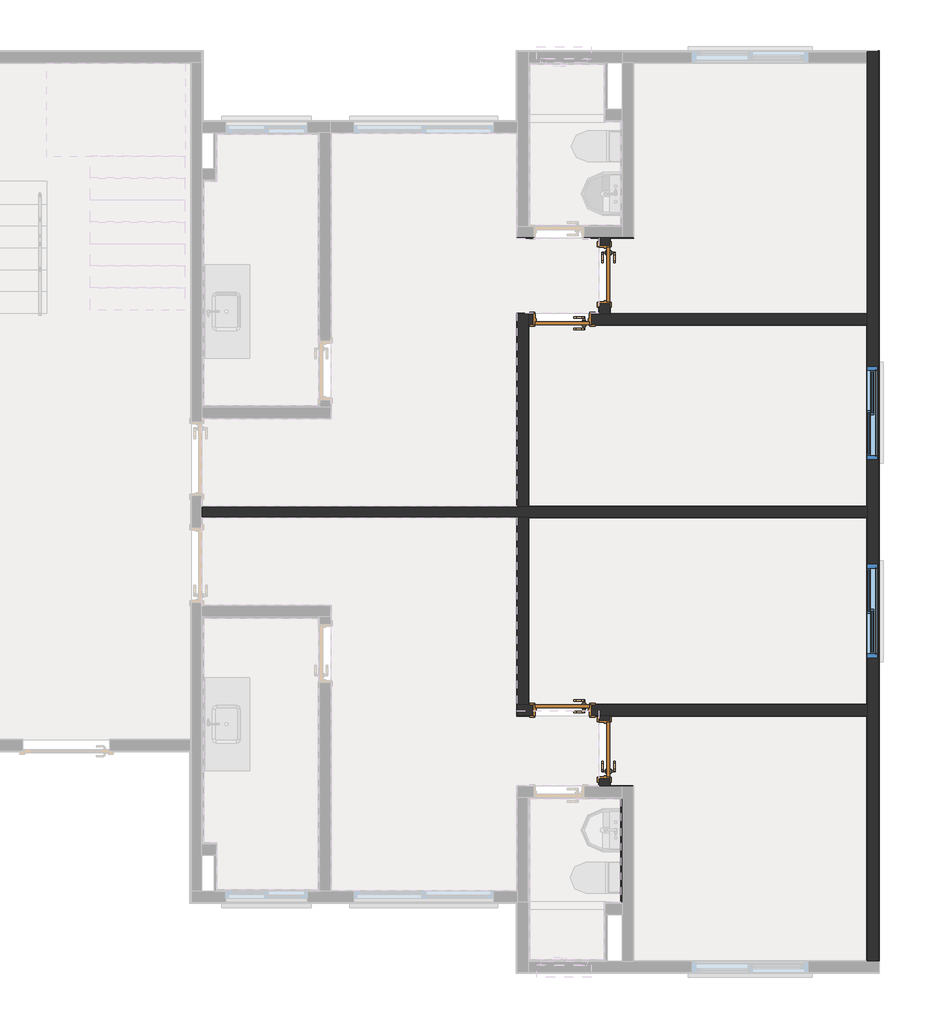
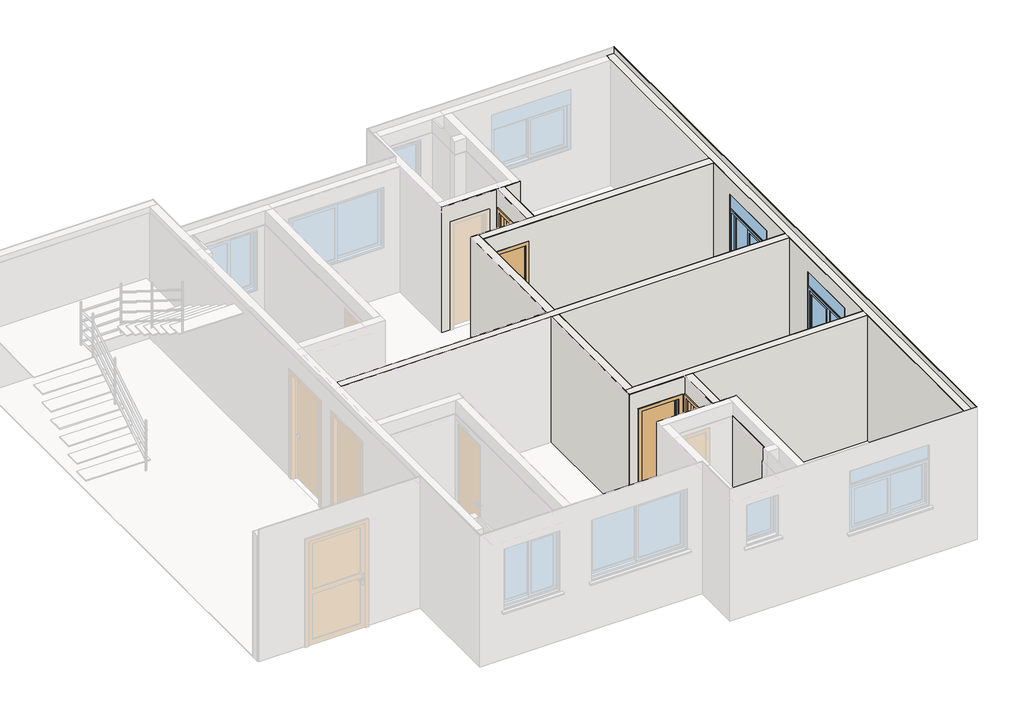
# One storey, part 7 of 9: 31 walls, 4 doors, 2 windows.
"""IFC4 building model written with IfcOpenShell, lengths in millimetres."""

from ifc_helpers import new_model, si_unit, frame, origin, place, context, project, spatial, polyline, outline, extrude, faceted_brep, transform, mapped, element, save
from components import porta_de_madeira_interna_70_x_210_porta_de_madeira_interna_d0067c94, porta_de_madeira_interna_70_x_210_porta_de_madeira_interna_f307109d, window_120x120_fed861a7, window_120x120_8f0dd2b5

model = new_model("IFC4")

# Units and contexts
model_context = context("Model", 3, world=origin())
ifc_project = project(units=[si_unit("LENGTHUNIT", "METRE", prefix="MILLI")], contexts=[model_context])

# Site, building, storey
site = spatial("IfcSite", under=ifc_project)
building = spatial("IfcBuilding", under=site)
storey = spatial("IfcBuildingStorey", under=building, Name="3º Pavimento", Elevation=5260.0)

# Doors
placement = place(None, origin())
porta_de_madeira_interna_70_x_210_porta_de_madeira_interna_shape = porta_de_madeira_interna_70_x_210_porta_de_madeira_interna_d0067c94(model_context)
element("IfcDoor", 1, ObjectType="Porta de Madeira Interna 70 x 210 : Porta de Madeira Interna 70 x 210", at=placement, inside=storey, context=model_context, shape_type="MappedRepresentation", body=[
    mapped(porta_de_madeira_interna_70_x_210_porta_de_madeira_interna_shape, transform((17273.1716432, 9457.0248023, 5260.0), x_axis=(0.0, -1.0, 0.0), y_axis=(1.0, 0.0, 0.0), z_axis=(0.0, 0.0, 1.0))),
])
element("IfcDoor", 2, ObjectType="Porta de Madeira Interna 70 x 210 : Porta de Madeira Interna 70 x 210", at=placement, inside=storey, context=model_context, shape_type="MappedRepresentation", body=[
    mapped(porta_de_madeira_interna_70_x_210_porta_de_madeira_interna_shape, transform((16726.9947994, 8876.8494803, 5260.0), x_axis=(-1.0, 0.0, 0.0), y_axis=(0.0, -1.0, 0.0), z_axis=(0.0, 0.0, 1.0))),
])
porta_de_madeira_interna_70_x_210_porta_de_madeira_interna_2_shape = porta_de_madeira_interna_70_x_210_porta_de_madeira_interna_f307109d(model_context)
element("IfcDoor", 3, ObjectType="Porta de Madeira Interna 70 x 210 : Porta de Madeira Interna 70 x 210", at=placement, inside=storey, context=model_context, shape_type="MappedRepresentation", body=[
    mapped(porta_de_madeira_interna_70_x_210_porta_de_madeira_interna_2_shape, transform((17273.1716432, 3342.9958256, 5260.0), x_axis=(0.0, 1.0, 0.0), y_axis=(-1.0, 0.0, 0.0), z_axis=(0.0, 0.0, 1.0))),
])
element("IfcDoor", 4, ObjectType="Porta de Madeira Interna 70 x 210 : Porta de Madeira Interna 70 x 210", at=placement, inside=storey, context=model_context, shape_type="MappedRepresentation", body=[
    mapped(porta_de_madeira_interna_70_x_210_porta_de_madeira_interna_2_shape, transform((16726.9947994, 3853.1701411, 5260.0), x_axis=(-1.0, 0.0, 0.0), y_axis=(0.0, -1.0, 0.0), z_axis=(0.0, 0.0, 1.0))),
])

# Walls
element("IfcWall", 5, ObjectType="Alvenaria Estrutural", at=placement, inside=storey, context=model_context, shape_type="Brep", body=[
    faceted_brep([(20649.9955249, 12319.9951043, 5260.0), (20649.9955249, 12180.0252435, 5260.0), (20649.9955249, 8956.0244803, 5260.0), (20649.9955249, 8950.0244803, 5260.0), (20649.9955249, 8810.0244803, 5260.0), (20649.9955249, 8804.0244803, 5260.0), (20649.9955249, 6476.0103139, 5260.0), (20649.9955249, 6470.0103139, 5260.0), (20649.9955249, 6330.0103139, 5260.0), (20649.9955249, 6324.0103139, 5260.0), (20649.9955249, 3925.9951411, 5260.0), (20649.9955249, 3919.9951411, 5260.0), (20649.9955249, 3779.9951411, 5260.0), (20649.9955249, 3773.9951411, 5260.0), (20649.9955249, 619.9952456, 5260.0), (20649.9955249, 619.9952456, 7770.0), (20649.9955249, 3773.9951411, 7770.0), (20649.9955249, 3779.9951411, 7770.0), (20649.9955249, 3919.9951411, 7770.0), (20649.9955249, 3925.9951411, 7770.0), (20649.9955249, 6324.0103139, 7770.0), (20649.9955249, 6330.0103139, 7770.0), (20649.9955249, 6470.0103139, 7770.0), (20649.9955249, 6476.0103139, 7770.0), (20649.9955249, 8804.0244803, 7770.0), (20649.9955249, 8810.0244803, 7770.0), (20649.9955249, 8950.0244803, 7770.0), (20649.9955249, 8956.0244803, 7770.0), (20649.9955249, 12180.0252435, 7770.0), (20649.9955249, 12319.9951043, 7770.0), (20649.9955249, 5725.0101878, 6260.0), (20649.9955249, 5725.0101878, 7460.0), (20649.9955249, 4525.0101878, 7460.0), (20649.9955249, 4525.0101878, 6260.0), (20649.9955249, 7075.01044, 7460.0), (20649.9955249, 7075.01044, 6260.0), (20649.9955249, 8275.01044, 6260.0), (20649.9955249, 8275.01044, 7460.0), (20789.9955249, 619.9952456, 5260.0), (20789.9955249, 12319.9951043, 5260.0), (20789.9955249, 12319.9951043, 7770.0), (20789.9955249, 619.9952456, 7770.0), (20789.9955249, 5725.0101878, 7460.0), (20789.9955249, 5725.0101878, 6260.0), (20789.9955249, 5775.0101878, 6260.0), (20789.9955249, 5775.0101878, 6211.3083694), (20789.9955249, 4475.0101878, 6211.3083694), (20789.9955249, 4475.0101878, 6260.0), (20789.9955249, 4525.0101878, 6260.0), (20789.9955249, 4525.0101878, 7460.0), (20789.9955249, 7025.01044, 6211.3083694), (20789.9955249, 7025.01044, 6260.0), (20789.9955249, 7075.01044, 6260.0), (20789.9955249, 7075.01044, 7460.0), (20789.9955249, 8275.01044, 7460.0), (20789.9955249, 8275.01044, 6260.0), (20789.9955249, 8325.01044, 6260.0), (20789.9955249, 8325.01044, 6211.3083694), (20692.4955249, 5725.0101878, 6260.0), (20692.4955249, 4525.0101878, 6260.0), (20692.4955249, 7075.01044, 6260.0), (20692.4955249, 8275.01044, 6260.0), (20692.4955249, 4475.0101878, 6232.0326341), (20692.4955249, 4475.0101878, 6260.0), (20692.4955249, 5775.0101878, 6260.0), (20692.4955249, 5775.0101878, 6232.0326341), (20692.4955249, 7025.01044, 6232.0326341), (20692.4955249, 7025.01044, 6260.0), (20692.4955249, 8325.01044, 6260.0), (20692.4955249, 8325.01044, 6232.0326341)], [[[0, 1, 2, 3, 4, 5, 6, 7, 8, 9, 10, 11, 12, 13, 14, 15, 16, 17, 18, 19, 20, 21, 22, 23, 24, 25, 26, 27, 28, 29], [30, 31, 32, 33], [34, 35, 36, 37]], [[38, 39, 40, 41], [42, 43, 44, 45, 46, 47, 48, 49], [50, 51, 52, 53, 54, 55, 56, 57]], [[31, 30, 58, 43, 42]], [[32, 31, 42, 49]], [[33, 32, 49, 48, 59]], [[30, 33, 59, 58]], [[35, 34, 53, 52, 60]], [[34, 37, 54, 53]], [[37, 36, 61, 55, 54]], [[36, 35, 60, 61]], [[1, 0, 39, 38, 14, 13, 12, 11, 10, 9, 8, 7, 6, 5, 4, 3, 2]], [[15, 14, 38, 41]], [[16, 15, 41, 40, 29, 28, 27, 26, 25, 24, 23, 22, 21, 20, 19, 18, 17]], [[0, 29, 40, 39]], [[47, 46, 62, 63]], [[45, 44, 64, 65]], [[58, 59, 63, 62, 65, 64]], [[48, 47, 63, 59]], [[46, 45, 65, 62]], [[51, 50, 66, 67]], [[57, 56, 68, 69]], [[61, 60, 67, 66, 69, 68]], [[52, 51, 67, 60]], [[50, 57, 69, 66]], [[56, 55, 61, 68]], [[44, 43, 58, 64]]]),
])
element("IfcWall", 6, ObjectType="Alvenaria Estrutural", at=placement, inside=storey, context=model_context, shape_type="Brep", body=[
    faceted_brep([(16149.9950207, 3919.9951411, 7770.0), (16289.9950207, 3919.9951411, 7770.0), (16295.9950207, 3919.9951411, 7770.0), (20643.9955249, 3919.9951411, 7770.0), (20649.9955249, 3919.9951411, 7770.0), (20649.9955249, 3919.9951411, 5260.0), (20643.9955249, 3919.9951411, 5260.0), (17101.9947994, 3919.9951411, 5260.0), (17101.9947994, 3919.9951411, 7385.0), (16351.9947994, 3919.9951411, 7385.0), (16351.9947994, 3919.9951411, 5260.0), (16295.9950207, 3919.9951411, 5260.0), (16289.9950207, 3919.9951411, 5260.0), (16149.9950207, 3919.9951411, 5260.0), (20649.9955249, 3779.9951411, 7770.0), (20643.9955249, 3779.9951411, 7770.0), (17345.9966432, 3779.9951411, 7770.0), (17339.9966432, 3779.9951411, 7770.0), (17199.9966432, 3779.9951411, 7770.0), (17193.9966432, 3779.9951411, 7770.0), (16149.9950207, 3779.9951411, 7770.0), (16149.9950207, 3779.9951411, 5260.0), (16351.9947994, 3779.9951411, 5260.0), (16351.9947994, 3779.9951411, 7385.0), (17101.9947994, 3779.9951411, 7385.0), (17101.9947994, 3779.9951411, 5260.0), (17193.9966432, 3779.9951411, 5260.0), (17199.9966432, 3779.9951411, 5260.0), (17339.9966432, 3779.9951411, 5260.0), (17345.9966432, 3779.9951411, 5260.0), (20643.9955249, 3779.9951411, 5260.0), (20649.9955249, 3779.9951411, 5260.0)], [[[0, 1, 2, 3, 4, 5, 6, 7, 8, 9, 10, 11, 12, 13]], [[14, 15, 16, 17, 18, 19, 20, 21, 22, 23, 24, 25, 26, 27, 28, 29, 30, 31]], [[6, 5, 31, 30, 29, 28, 27, 26, 25, 7]], [[1, 0, 20, 19, 18, 17, 16, 15, 14, 4, 3, 2]], [[10, 9, 23, 22]], [[9, 8, 24, 23]], [[8, 7, 25, 24]], [[0, 13, 21, 20]], [[5, 4, 14, 31]], [[11, 10, 22, 21, 13, 12]]]),
])
element("IfcWall", 7, ObjectType="Alvenaria Estrutural", at=placement, inside=storey, context=model_context, shape_type="Brep", body=[
    faceted_brep([(20649.9955249, 6470.0103139, 5260.0), (20643.9955249, 6470.0103139, 5260.0), (16295.9950207, 6470.0103139, 5260.0), (16289.9950207, 6470.0103139, 5260.0), (16149.9950207, 6470.0103139, 5260.0), (16143.9950207, 6470.0103139, 5260.0), (12095.9984066, 6470.0103139, 5260.0), (12089.9984066, 6470.0103139, 5260.0), (12089.9984066, 6470.0103139, 7770.0), (12095.9984066, 6470.0103139, 7770.0), (16143.9950207, 6470.0103139, 7770.0), (16149.9950207, 6470.0103139, 7770.0), (16289.9950207, 6470.0103139, 7770.0), (16295.9950207, 6470.0103139, 7770.0), (20643.9955249, 6470.0103139, 7770.0), (20649.9955249, 6470.0103139, 7770.0), (20649.9955249, 6330.0103139, 5260.0), (20649.9955249, 6330.0103139, 7770.0), (20643.9955249, 6330.0103139, 7770.0), (16295.9950207, 6330.0103139, 7770.0), (16289.9950207, 6330.0103139, 7770.0), (16149.9950207, 6330.0103139, 7770.0), (16143.9950207, 6330.0103139, 7770.0), (12095.9984066, 6330.0103139, 7770.0), (12089.9984066, 6330.0103139, 7770.0), (12089.9984066, 6330.0103139, 5260.0), (12095.9984066, 6330.0103139, 5260.0), (16143.9950207, 6330.0103139, 5260.0), (16149.9950207, 6330.0103139, 5260.0), (16289.9950207, 6330.0103139, 5260.0), (16295.9950207, 6330.0103139, 5260.0), (20643.9955249, 6330.0103139, 5260.0)], [[[0, 1, 2, 3, 4, 5, 6, 7, 8, 9, 10, 11, 12, 13, 14, 15]], [[16, 17, 18, 19, 20, 21, 22, 23, 24, 25, 26, 27, 28, 29, 30, 31]], [[1, 0, 16, 31, 30, 29, 28, 27, 26, 25, 7, 6, 5, 4, 3, 2]], [[9, 8, 24, 23, 22, 21, 20, 19, 18, 17, 15, 14, 13, 12, 11, 10]], [[8, 7, 25, 24]], [[0, 15, 17, 16]]]),
])
element("IfcWall", 8, ObjectType="Alvenaria Estrutural", at=placement, inside=storey, context=model_context, shape_type="Brep", body=[
    faceted_brep([(16149.9950207, 6330.0103139, 5260.0), (16149.9950207, 6324.0103139, 5260.0), (16149.9950207, 3919.9951411, 5260.0), (16149.9950207, 3919.9951411, 7770.0), (16149.9950207, 6324.0103139, 7770.0), (16149.9950207, 6330.0103139, 7770.0), (16289.9950207, 6330.0103139, 5260.0), (16289.9950207, 6330.0103139, 7770.0), (16289.9950207, 6324.0103139, 7770.0), (16289.9950207, 3925.9951411, 7770.0), (16289.9950207, 3919.9951411, 7770.0), (16289.9950207, 3919.9951411, 5260.0), (16289.9950207, 3925.9951411, 5260.0), (16289.9950207, 6324.0103139, 5260.0)], [[[0, 1, 2, 3, 4, 5]], [[6, 7, 8, 9, 10, 11, 12, 13]], [[1, 0, 6, 13, 12, 11, 2]], [[4, 3, 10, 9, 8, 7, 5]], [[0, 5, 7, 6]], [[3, 2, 11, 10]]]),
])
element("IfcWall", 9, ObjectType="Alvenaria Estrutural", at=placement, inside=storey, context=model_context, shape_type="Brep", body=[
    faceted_brep([(17199.9966432, 2869.9967615, 7770.0), (17199.9966432, 2875.9967615, 7770.0), (17199.9966432, 3773.9951411, 7770.0), (17199.9966432, 3779.9951411, 7770.0), (17199.9966432, 3779.9951411, 5260.0), (17199.9966432, 3773.9951411, 5260.0), (17199.9966432, 3717.9958256, 5260.0), (17199.9966432, 3717.9958256, 7385.0), (17199.9966432, 2967.9958256, 7385.0), (17199.9966432, 2967.9958256, 5260.0), (17199.9966432, 2875.9967615, 5260.0), (17199.9966432, 2869.9967615, 5260.0), (17339.9966432, 3779.9951411, 7770.0), (17339.9966432, 2875.9967615, 7770.0), (17339.9966432, 2869.9967615, 7770.0), (17339.9966432, 2869.9967615, 5260.0), (17339.9966432, 2875.9967615, 5260.0), (17339.9966432, 2967.9958256, 5260.0), (17339.9966432, 2967.9958256, 7385.0), (17339.9966432, 3717.9958256, 7385.0), (17339.9966432, 3717.9958256, 5260.0), (17339.9966432, 3779.9951411, 5260.0)], [[[0, 1, 2, 3, 4, 5, 6, 7, 8, 9, 10, 11]], [[12, 13, 14, 15, 16, 17, 18, 19, 20, 21]], [[5, 4, 21, 20, 6]], [[1, 0, 14, 13, 12, 3, 2]], [[7, 6, 20, 19]], [[8, 7, 19, 18]], [[9, 8, 18, 17]], [[0, 11, 15, 14]], [[4, 3, 12, 21]], [[10, 9, 17, 16, 15, 11]]]),
])
element("IfcWall", 10, ObjectType="Alvenaria Estrutural", at=placement, inside=storey, context=model_context, shape_type="Brep", body=[
    faceted_brep([(16289.9950207, 6470.0103139, 5260.0), (16289.9950207, 6476.0103139, 5260.0), (16289.9950207, 8804.0244803, 5260.0), (16289.9950207, 8810.0244803, 5260.0), (16289.9950207, 8950.0244803, 5260.0), (16289.9950207, 8950.0244803, 7770.0), (16289.9950207, 8810.0244803, 7770.0), (16289.9950207, 8804.0244803, 7770.0), (16289.9950207, 6476.0103139, 7770.0), (16289.9950207, 6470.0103139, 7770.0), (16149.9950207, 6470.0103139, 5260.0), (16149.9950207, 6470.0103139, 7770.0), (16149.9950207, 6476.0103139, 7770.0), (16149.9950207, 8950.0244803, 7770.0), (16149.9950207, 8950.0244803, 5260.0), (16149.9950207, 6476.0103139, 5260.0)], [[[0, 1, 2, 3, 4, 5, 6, 7, 8, 9]], [[10, 11, 12, 13, 14, 15]], [[1, 0, 10, 15, 14, 4, 3, 2]], [[6, 5, 13, 12, 11, 9, 8, 7]], [[5, 4, 14, 13]], [[0, 9, 11, 10]]]),
])
element("IfcWall", 11, ObjectType="Alvenaria Estrutural", at=placement, inside=storey, context=model_context, shape_type="Brep", body=[
    faceted_brep([(17339.9966432, 9930.0238664, 7770.0), (17339.9966432, 9924.0238664, 7770.0), (17339.9966432, 8950.0244803, 7770.0), (17339.9966432, 8950.0244803, 5260.0), (17339.9966432, 9082.0248023, 5260.0), (17339.9966432, 9082.0248023, 7385.0), (17339.9966432, 9832.0248023, 7385.0), (17339.9966432, 9832.0248023, 5260.0), (17339.9966432, 9924.0238664, 5260.0), (17339.9966432, 9930.0238664, 5260.0), (17199.9966432, 8950.0244803, 7770.0), (17199.9966432, 8956.0244803, 7770.0), (17199.9966432, 9924.0238664, 7770.0), (17199.9966432, 9930.0238664, 7770.0), (17199.9966432, 9930.0238664, 5260.0), (17199.9966432, 9924.0238664, 5260.0), (17199.9966432, 9832.0248023, 5260.0), (17199.9966432, 9832.0248023, 7385.0), (17199.9966432, 9082.0248023, 7385.0), (17199.9966432, 9082.0248023, 5260.0), (17199.9966432, 8956.0244803, 5260.0), (17199.9966432, 8950.0244803, 5260.0)], [[[0, 1, 2, 3, 4, 5, 6, 7, 8, 9]], [[10, 11, 12, 13, 14, 15, 16, 17, 18, 19, 20, 21]], [[4, 3, 21, 20, 19]], [[1, 0, 13, 12, 11, 10, 2]], [[5, 4, 19, 18]], [[6, 5, 18, 17]], [[7, 6, 17, 16]], [[3, 2, 10, 21]], [[0, 9, 14, 13]], [[8, 7, 16, 15, 14, 9]]]),
])
element("IfcWall", 12, ObjectType="Alvenaria Estrutural", at=placement, inside=storey, context=model_context, shape_type="Brep", body=[
    faceted_brep([(20649.9955249, 8810.0244803, 7770.0), (20643.9955249, 8810.0244803, 7770.0), (16295.9950207, 8810.0244803, 7770.0), (16289.9950207, 8810.0244803, 7770.0), (16289.9950207, 8810.0244803, 5260.0), (16295.9950207, 8810.0244803, 5260.0), (16351.9947994, 8810.0244803, 5260.0), (16351.9947994, 8810.0244803, 7385.0), (17101.9947994, 8810.0244803, 7385.0), (17101.9947994, 8810.0244803, 5260.0), (20643.9955249, 8810.0244803, 5260.0), (20649.9955249, 8810.0244803, 5260.0), (16289.9950207, 8950.0244803, 7770.0), (17193.9966432, 8950.0244803, 7770.0), (17199.9966432, 8950.0244803, 7770.0), (17339.9966432, 8950.0244803, 7770.0), (17345.9966432, 8950.0244803, 7770.0), (20643.9955249, 8950.0244803, 7770.0), (20649.9955249, 8950.0244803, 7770.0), (20649.9955249, 8950.0244803, 5260.0), (20643.9955249, 8950.0244803, 5260.0), (17345.9966432, 8950.0244803, 5260.0), (17339.9966432, 8950.0244803, 5260.0), (17199.9966432, 8950.0244803, 5260.0), (17193.9966432, 8950.0244803, 5260.0), (17101.9947994, 8950.0244803, 5260.0), (17101.9947994, 8950.0244803, 7385.0), (16351.9947994, 8950.0244803, 7385.0), (16351.9947994, 8950.0244803, 5260.0), (16289.9950207, 8950.0244803, 5260.0)], [[[0, 1, 2, 3, 4, 5, 6, 7, 8, 9, 10, 11]], [[12, 13, 14, 15, 16, 17, 18, 19, 20, 21, 22, 23, 24, 25, 26, 27, 28, 29]], [[5, 4, 29, 28, 6]], [[1, 0, 18, 17, 16, 15, 14, 13, 12, 3, 2]], [[7, 6, 28, 27]], [[8, 7, 27, 26]], [[9, 8, 26, 25]], [[4, 3, 12, 29]], [[0, 11, 19, 18]], [[10, 9, 25, 24, 23, 22, 21, 20, 19, 11]]]),
])
element("IfcWall", 13, ObjectType="Azulejo", at=placement, inside=storey, context=model_context, shape_type="SweptSolid", body=[
    extrude(outline(polyline([(17479.9970535, 1379.9970972), (17479.9970535, 2709.9967615), (17489.9970535, 2709.9967615), (17489.9970535, 1379.9970972), (17479.9970535, 1379.9970972)])), frame((0.0, 0.0, 5260.0), z_axis=(0.0, 0.0, 1.0), x_axis=(1.0, 0.0, 0.0)), (0.0, 0.0, 1.0), 2250.0),
    extrude(outline(polyline([(17499.9970535, 2719.9967615), (17499.9970535, 1369.9970972), (17489.9970535, 1369.9970972), (17489.9970535, 2719.9967615), (17499.9970535, 2719.9967615)])), frame((0.0, 0.0, 5260.0), z_axis=(0.0, 0.0, 1.0), x_axis=(1.0, 0.0, 0.0)), (0.0, 0.0, 1.0), 2250.0),
])
element("IfcWall", 14, ObjectType="Gesso Liso + Pintura", at=placement, inside=storey, context=model_context, shape_type="SweptSolid", body=[
    extrude(outline(polyline([(6470.0103139, 5260.0), (6470.0103139, 7770.0), (8810.0244803, 7770.0), (8810.0244803, 5260.0), (6470.0103139, 5260.0)]), holes=[polyline([(7075.01044, 6260.0), (8275.01044, 6260.0), (8275.01044, 7460.0), (7075.01044, 7460.0), (7075.01044, 6260.0)])]), frame((20643.9955249, 0.0, 0.0), z_axis=(1.0, 0.0, 0.0), x_axis=(0.0, 1.0, 0.0)), (0.0, 0.0, 1.0), 1.0),
    extrude(outline(polyline([(8810.0244803, 5260.0), (6470.0103139, 5260.0), (6470.0103139, 7770.0), (8810.0244803, 7770.0), (8810.0244803, 5260.0)]), holes=[polyline([(7075.01044, 7460.0), (7075.01044, 6260.0), (8275.01044, 6260.0), (8275.01044, 7460.0), (7075.01044, 7460.0)])]), frame((20644.9955249, 0.0, 0.0), z_axis=(1.0, 0.0, 0.0), x_axis=(0.0, 1.0, 0.0)), (0.0, 0.0, 1.0), 5.0),
])
element("IfcWall", 15, ObjectType="Gesso Liso + Pintura", at=placement, inside=storey, context=model_context, shape_type="SweptSolid", body=[
    extrude(outline(polyline([(7770.0, 20649.9955249), (7770.0, 16289.9950207), (5260.0, 16289.9950207), (5260.0, 16351.9947994), (7385.0, 16351.9947994), (7385.0, 17101.9947994), (5260.0, 17101.9947994), (5260.0, 20649.9955249), (7770.0, 20649.9955249)])), frame((0.0, 8804.0244803, 0.0), z_axis=(0.0, 1.0, 0.0), x_axis=(0.0, 0.0, 1.0)), (0.0, 0.0, 1.0), 1.0),
    extrude(outline(polyline([(5260.0, 17101.9947994), (5260.0, 20649.9955249), (7770.0, 20649.9955249), (7770.0, 16289.9950207), (5260.0, 16289.9950207), (5260.0, 16351.9947994), (7385.0, 16351.9947994), (7385.0, 17101.9947994), (5260.0, 17101.9947994)])), frame((0.0, 8805.0244803, 0.0), z_axis=(0.0, 1.0, 0.0), x_axis=(0.0, 0.0, 1.0)), (0.0, 0.0, 1.0), 5.0),
])
element("IfcWall", 16, ObjectType="Gesso Liso + Pintura", at=placement, inside=storey, context=model_context, shape_type="SweptSolid", body=[
    extrude(outline(polyline([(16295.9950207, 8810.0244803), (16295.9950207, 6470.0103139), (16294.9950207, 6470.0103139), (16294.9950207, 8810.0244803), (16295.9950207, 8810.0244803)])), frame((0.0, 0.0, 5260.0), z_axis=(0.0, 0.0, 1.0), x_axis=(1.0, 0.0, 0.0)), (0.0, 0.0, 1.0), 2510.0),
    extrude(outline(polyline([(16289.9950207, 6470.0103139), (16289.9950207, 8810.0244803), (16294.9950207, 8810.0244803), (16294.9950207, 6470.0103139), (16289.9950207, 6470.0103139)])), frame((0.0, 0.0, 5260.0), z_axis=(0.0, 0.0, 1.0), x_axis=(1.0, 0.0, 0.0)), (0.0, 0.0, 1.0), 2510.0),
])
element("IfcWall", 17, ObjectType="Gesso Liso + Pintura", at=placement, inside=storey, context=model_context, shape_type="SweptSolid", body=[
    extrude(outline(polyline([(16289.9950207, 6476.0103139), (20649.9955249, 6476.0103139), (20649.9955249, 6475.0103139), (16289.9950207, 6475.0103139), (16289.9950207, 6476.0103139)])), frame((0.0, 0.0, 5260.0), z_axis=(0.0, 0.0, 1.0), x_axis=(1.0, 0.0, 0.0)), (0.0, 0.0, 1.0), 2510.0),
    extrude(outline(polyline([(20649.9955249, 6470.0103139), (16289.9950207, 6470.0103139), (16289.9950207, 6475.0103139), (20649.9955249, 6475.0103139), (20649.9955249, 6470.0103139)])), frame((0.0, 0.0, 5260.0), z_axis=(0.0, 0.0, 1.0), x_axis=(1.0, 0.0, 0.0)), (0.0, 0.0, 1.0), 2510.0),
])
element("IfcWall", 18, ObjectType="Gesso Liso + Pintura", at=placement, inside=storey, context=model_context, shape_type="SweptSolid", body=[
    extrude(outline(polyline([(6330.0103139, 5260.0), (3919.9951411, 5260.0), (3919.9951411, 7770.0), (6330.0103139, 7770.0), (6330.0103139, 5260.0)]), holes=[polyline([(5725.0101878, 6260.0), (5725.0101878, 7460.0), (4525.0101878, 7460.0), (4525.0101878, 6260.0), (5725.0101878, 6260.0)])]), frame((20643.9955249, 0.0, 0.0), z_axis=(1.0, 0.0, 0.0), x_axis=(0.0, 1.0, 0.0)), (0.0, 0.0, 1.0), 1.0),
    extrude(outline(polyline([(6330.0103139, 5260.0), (3919.9951411, 5260.0), (3919.9951411, 7770.0), (6330.0103139, 7770.0), (6330.0103139, 5260.0)]), holes=[polyline([(5725.0101878, 6260.0), (5725.0101878, 7460.0), (4525.0101878, 7460.0), (4525.0101878, 6260.0), (5725.0101878, 6260.0)])]), frame((20644.9955249, 0.0, 0.0), z_axis=(1.0, 0.0, 0.0), x_axis=(0.0, 1.0, 0.0)), (0.0, 0.0, 1.0), 5.0),
])
element("IfcWall", 19, ObjectType="Gesso Liso + Pintura", at=placement, inside=storey, context=model_context, shape_type="SweptSolid", body=[
    extrude(outline(polyline([(5260.0, 17101.9947994), (5260.0, 20649.9955249), (7770.0, 20649.9955249), (7770.0, 16289.9950207), (5260.0, 16289.9950207), (5260.0, 16351.9947994), (7385.0, 16351.9947994), (7385.0, 17101.9947994), (5260.0, 17101.9947994)])), frame((0.0, 3924.9951411, 0.0), z_axis=(0.0, 1.0, 0.0), x_axis=(0.0, 0.0, 1.0)), (0.0, 0.0, 1.0), 1.0),
    extrude(outline(polyline([(7770.0, 20649.9955249), (7770.0, 16289.9950207), (5260.0, 16289.9950207), (5260.0, 16351.9947994), (7385.0, 16351.9947994), (7385.0, 17101.9947994), (5260.0, 17101.9947994), (5260.0, 20649.9955249), (7770.0, 20649.9955249)])), frame((0.0, 3919.9951411, 0.0), z_axis=(0.0, 1.0, 0.0), x_axis=(0.0, 0.0, 1.0)), (0.0, 0.0, 1.0), 5.0),
])
element("IfcWall", 20, ObjectType="Gesso Liso + Pintura", at=placement, inside=storey, context=model_context, shape_type="SweptSolid", body=[
    extrude(outline(polyline([(16295.9950207, 6330.0103139), (16295.9950207, 3919.9951411), (16294.9950207, 3919.9951411), (16294.9950207, 6330.0103139), (16295.9950207, 6330.0103139)])), frame((0.0, 0.0, 5260.0), z_axis=(0.0, 0.0, 1.0), x_axis=(1.0, 0.0, 0.0)), (0.0, 0.0, 1.0), 2510.0),
    extrude(outline(polyline([(16289.9950207, 3919.9951411), (16289.9950207, 6330.0103139), (16294.9950207, 6330.0103139), (16294.9950207, 3919.9951411), (16289.9950207, 3919.9951411)])), frame((0.0, 0.0, 5260.0), z_axis=(0.0, 0.0, 1.0), x_axis=(1.0, 0.0, 0.0)), (0.0, 0.0, 1.0), 2510.0),
])
element("IfcWall", 21, ObjectType="Gesso Liso + Pintura", at=placement, inside=storey, context=model_context, shape_type="SweptSolid", body=[
    extrude(outline(polyline([(20649.9955249, 6324.0103139), (16289.9950207, 6324.0103139), (16289.9950207, 6325.0103139), (20649.9955249, 6325.0103139), (20649.9955249, 6324.0103139)])), frame((0.0, 0.0, 5260.0), z_axis=(0.0, 0.0, 1.0), x_axis=(1.0, 0.0, 0.0)), (0.0, 0.0, 1.0), 2510.0),
    extrude(outline(polyline([(16289.9950207, 6330.0103139), (20649.9955249, 6330.0103139), (20649.9955249, 6325.0103139), (16289.9950207, 6325.0103139), (16289.9950207, 6330.0103139)])), frame((0.0, 0.0, 5260.0), z_axis=(0.0, 0.0, 1.0), x_axis=(1.0, 0.0, 0.0)), (0.0, 0.0, 1.0), 2510.0),
])
element("IfcWall", 22, ObjectType="Gesso Liso + Pintura", at=placement, inside=storey, context=model_context, shape_type="SolidModel", body=[
    faceted_brep([(20643.9955249, 625.9952456, 5260.0), (20643.9955249, 3779.9951411, 5260.0), (20644.9955249, 3779.9951411, 5260.0), (20644.9955249, 624.9952456, 5260.0), (20643.9955249, 624.9952456, 5260.0), (20644.9955249, 3779.9951411, 7770.0), (20643.9955249, 3779.9951411, 7770.0), (20643.9955249, 625.9952456, 7770.0), (20643.9955249, 624.9952456, 7770.0), (20644.9955249, 624.9952456, 7770.0)], [[[0, 1, 2, 3, 4]], [[5, 6, 7, 8, 9]], [[2, 1, 6, 5]], [[2, 5, 9, 3]], [[1, 0, 4, 8, 7, 6]], [[4, 3, 9, 8]]]),
    extrude(outline(polyline([(20649.9955249, 3779.9951411), (20649.9955249, 619.9952456), (20644.9955249, 619.9952456), (20644.9955249, 3779.9951411), (20649.9955249, 3779.9951411)])), frame((0.0, 0.0, 5260.0), z_axis=(0.0, 0.0, 1.0), x_axis=(1.0, 0.0, 0.0)), (0.0, 0.0, 1.0), 2510.0),
])
element("IfcWall", 23, ObjectType="Gesso Liso + Pintura", at=placement, inside=storey, context=model_context, shape_type="SolidModel", body=[
    faceted_brep([(17345.9966432, 2875.9967615, 5260.0), (17644.9970535, 2875.9967615, 5260.0), (17644.9970535, 2874.9967615, 5260.0), (17344.9966432, 2874.9967615, 5260.0), (17344.9966432, 2875.9967615, 5260.0), (17644.9970535, 2875.9967615, 7770.0), (17345.9966432, 2875.9967615, 7770.0), (17344.9966432, 2875.9967615, 7770.0), (17344.9966432, 2874.9967615, 7770.0), (17644.9970535, 2874.9967615, 7770.0)], [[[0, 1, 2, 3, 4]], [[5, 6, 7, 8, 9]], [[2, 9, 8, 3]], [[1, 0, 4, 7, 6, 5]], [[1, 5, 9, 2]], [[4, 3, 8, 7]]]),
    extrude(outline(polyline([(17639.9970535, 2869.9967615), (17339.9966432, 2869.9967615), (17339.9966432, 2874.9967615), (17639.9970535, 2874.9967615), (17639.9970535, 2869.9967615)])), frame((0.0, 0.0, 5260.0), z_axis=(0.0, 0.0, 1.0), x_axis=(1.0, 0.0, 0.0)), (0.0, 0.0, 1.0), 2510.0),
])
element("IfcWall", 24, ObjectType="Gesso Liso + Pintura", at=placement, inside=storey, context=model_context, shape_type="SolidModel", body=[
    faceted_brep([(17345.9966432, 2967.9958256, 5260.0), (17345.9966432, 2875.9967615, 5260.0), (17344.9966432, 2875.9967615, 5260.0), (17344.9966432, 2967.9958256, 5260.0), (17344.9966432, 2875.9967615, 7770.0), (17345.9966432, 2875.9967615, 7770.0), (17345.9966432, 3773.9951411, 7770.0), (17345.9966432, 3774.9951411, 7770.0), (17344.9966432, 3774.9951411, 7770.0), (17345.9966432, 3717.9958256, 5260.0), (17345.9966432, 3717.9958256, 7385.0), (17344.9966432, 3717.9958256, 7385.0), (17344.9966432, 3717.9958256, 5260.0), (17345.9966432, 2967.9958256, 7385.0), (17344.9966432, 2967.9958256, 7385.0), (17344.9966432, 3774.9951411, 5260.0), (17345.9966432, 3774.9951411, 5260.0), (17345.9966432, 3773.9951411, 5260.0)], [[[0, 1, 2, 3]], [[4, 5, 6, 7, 8]], [[9, 10, 11, 12]], [[11, 10, 13, 14]], [[0, 3, 14, 13]], [[2, 1, 5, 4]], [[9, 12, 15, 16, 17]], [[3, 2, 4, 8, 15, 12, 11, 14]], [[1, 0, 13, 10, 9, 17, 16, 7, 6, 5]], [[8, 7, 16, 15]]]),
    extrude(outline(polyline([(2874.9967615, 7770.0), (3779.9951411, 7770.0), (3779.9951411, 5260.0), (3717.9958256, 5260.0), (3717.9958256, 7385.0), (2967.9958256, 7385.0), (2967.9958256, 5260.0), (2874.9967615, 5260.0), (2874.9967615, 7770.0)])), frame((17339.9966432, 0.0, 0.0), z_axis=(1.0, 0.0, 0.0), x_axis=(0.0, 1.0, 0.0)), (0.0, 0.0, 1.0), 5.0),
])
element("IfcWall", 25, ObjectType="Gesso Liso + Pintura", at=placement, inside=storey, context=model_context, shape_type="SweptSolid", body=[
    extrude(outline(polyline([(20649.9955249, 3773.9951411), (17345.9966432, 3773.9951411), (17345.9966432, 3774.9951411), (20649.9955249, 3774.9951411), (20649.9955249, 3773.9951411)])), frame((0.0, 0.0, 5260.0), z_axis=(0.0, 0.0, 1.0), x_axis=(1.0, 0.0, 0.0)), (0.0, 0.0, 1.0), 2510.0),
    extrude(outline(polyline([(17344.9966432, 3779.9951411), (20649.9955249, 3779.9951411), (20649.9955249, 3774.9951411), (17344.9966432, 3774.9951411), (17344.9966432, 3779.9951411)])), frame((0.0, 0.0, 5260.0), z_axis=(0.0, 0.0, 1.0), x_axis=(1.0, 0.0, 0.0)), (0.0, 0.0, 1.0), 2510.0),
])
element("IfcWall", 26, ObjectType="Gesso Liso + Pintura", at=placement, inside=storey, context=model_context, shape_type="SolidModel", body=[
    faceted_brep([(17644.9970535, 9924.0238664, 5260.0), (17345.9966432, 9924.0238664, 5260.0), (17344.9966432, 9924.0238664, 5260.0), (17344.9966432, 9925.0238664, 5260.0), (17644.9970535, 9925.0238664, 5260.0), (17345.9966432, 9924.0238664, 7770.0), (17644.9970535, 9924.0238664, 7770.0), (17644.9970535, 9925.0238664, 7770.0), (17344.9966432, 9925.0238664, 7770.0), (17344.9966432, 9924.0238664, 7770.0)], [[[0, 1, 2, 3, 4]], [[5, 6, 7, 8, 9]], [[7, 4, 3, 8]], [[1, 0, 6, 5, 9, 2]], [[6, 0, 4, 7]], [[3, 2, 9, 8]]]),
    extrude(outline(polyline([(17339.9966432, 9930.0238664), (17639.9970535, 9930.0238664), (17639.9970535, 9925.0238664), (17339.9966432, 9925.0238664), (17339.9966432, 9930.0238664)])), frame((0.0, 0.0, 5260.0), z_axis=(0.0, 0.0, 1.0), x_axis=(1.0, 0.0, 0.0)), (0.0, 0.0, 1.0), 2510.0),
])
element("IfcWall", 27, ObjectType="Gesso Liso + Pintura", at=placement, inside=storey, context=model_context, shape_type="SolidModel", body=[
    faceted_brep([(17345.9966432, 9924.0238664, 5260.0), (17345.9966432, 9832.0248023, 5260.0), (17344.9966432, 9832.0248023, 5260.0), (17344.9966432, 9924.0238664, 5260.0), (17345.9966432, 8956.0244803, 7770.0), (17345.9966432, 9924.0238664, 7770.0), (17344.9966432, 9924.0238664, 7770.0), (17344.9966432, 8955.0244803, 7770.0), (17345.9966432, 8955.0244803, 7770.0), (17345.9966432, 9082.0248023, 7385.0), (17345.9966432, 9082.0248023, 5260.0), (17344.9966432, 9082.0248023, 5260.0), (17344.9966432, 9082.0248023, 7385.0), (17344.9966432, 9832.0248023, 7385.0), (17345.9966432, 9832.0248023, 7385.0), (17345.9966432, 8956.0244803, 5260.0), (17345.9966432, 8955.0244803, 5260.0), (17344.9966432, 8955.0244803, 5260.0)], [[[0, 1, 2, 3]], [[4, 5, 6, 7, 8]], [[9, 10, 11, 12]], [[9, 12, 13, 14]], [[2, 1, 14, 13]], [[0, 3, 6, 5]], [[11, 10, 15, 16, 17]], [[3, 2, 13, 12, 11, 17, 7, 6]], [[1, 0, 5, 4, 8, 16, 15, 10, 9, 14]], [[8, 7, 17, 16]]]),
    extrude(outline(polyline([(8950.0244803, 7770.0), (9925.0238664, 7770.0), (9925.0238664, 5260.0), (9832.0248023, 5260.0), (9832.0248023, 7385.0), (9082.0248023, 7385.0), (9082.0248023, 5260.0), (8950.0244803, 5260.0), (8950.0244803, 7770.0)])), frame((17339.9966432, 0.0, 0.0), z_axis=(1.0, 0.0, 0.0), x_axis=(0.0, 1.0, 0.0)), (0.0, 0.0, 1.0), 5.0),
])
element("IfcWall", 28, ObjectType="Gesso Liso + Pintura", at=placement, inside=storey, context=model_context, shape_type="SweptSolid", body=[
    extrude(outline(polyline([(2869.9967615, 7770.0), (3779.9951411, 7770.0), (3779.9951411, 5260.0), (3717.9958256, 5260.0), (3717.9958256, 7385.0), (2967.9958256, 7385.0), (2967.9958256, 5260.0), (2869.9967615, 5260.0), (2869.9967615, 7770.0)])), frame((17193.9966432, 0.0, 0.0), z_axis=(1.0, 0.0, 0.0), x_axis=(0.0, 1.0, 0.0)), (0.0, 0.0, 1.0), 1.0),
    extrude(outline(polyline([(2967.9958256, 5260.0), (2869.9967615, 5260.0), (2869.9967615, 7770.0), (3779.9951411, 7770.0), (3779.9951411, 5260.0), (3717.9958256, 5260.0), (3717.9958256, 7385.0), (2967.9958256, 7385.0), (2967.9958256, 5260.0)])), frame((17194.9966432, 0.0, 0.0), z_axis=(1.0, 0.0, 0.0), x_axis=(0.0, 1.0, 0.0)), (0.0, 0.0, 1.0), 5.0),
])
element("IfcWall", 29, ObjectType="Gesso Liso + Pintura", at=placement, inside=storey, context=model_context, shape_type="SolidModel", body=[
    extrude(outline(polyline([(7770.0, 17199.9966432), (7770.0, 16143.9950207), (5260.0, 16143.9950207), (5260.0, 16351.9947994), (7385.0, 16351.9947994), (7385.0, 17101.9947994), (5260.0, 17101.9947994), (5260.0, 17199.9966432), (7770.0, 17199.9966432)])), frame((0.0, 3773.9951411, 0.0), z_axis=(0.0, 1.0, 0.0), x_axis=(0.0, 0.0, 1.0)), (0.0, 0.0, 1.0), 1.0),
    faceted_brep([(16144.9950207, 3774.9951411, 5260.0), (16351.9947994, 3774.9951411, 5260.0), (16351.9947994, 3774.9951411, 7385.0), (17101.9947994, 3774.9951411, 7385.0), (17101.9947994, 3774.9951411, 5260.0), (17199.9966432, 3774.9951411, 5260.0), (17199.9966432, 3774.9951411, 7770.0), (16144.9950207, 3774.9951411, 7770.0), (16144.9950207, 3779.9951411, 7770.0), (16149.9950207, 3779.9951411, 7770.0), (17199.9966432, 3779.9951411, 7770.0), (17199.9966432, 3779.9951411, 5260.0), (17101.9947994, 3779.9951411, 5260.0), (17101.9947994, 3779.9951411, 7385.0), (16351.9947994, 3779.9951411, 7385.0), (16351.9947994, 3779.9951411, 5260.0), (16149.9950207, 3779.9951411, 5260.0), (16144.9950207, 3779.9951411, 5260.0)], [[[0, 1, 2, 3, 4, 5, 6, 7]], [[8, 9, 10, 11, 12, 13, 14, 15, 16, 17]], [[12, 11, 5, 4]], [[9, 8, 7, 6, 10]], [[15, 14, 2, 1]], [[14, 13, 3, 2]], [[13, 12, 4, 3]], [[11, 10, 6, 5]], [[16, 15, 1, 0, 17]], [[8, 17, 0, 7]]]),
])
element("IfcWall", 30, ObjectType="Gesso Liso + Pintura", at=placement, inside=storey, context=model_context, shape_type="SweptSolid", body=[
    extrude(outline(polyline([(16143.9950207, 3774.9951411), (16143.9950207, 6330.0103139), (16144.9950207, 6330.0103139), (16144.9950207, 3774.9951411), (16143.9950207, 3774.9951411)])), frame((0.0, 0.0, 5260.0), z_axis=(0.0, 0.0, 1.0), x_axis=(1.0, 0.0, 0.0)), (0.0, 0.0, 1.0), 2510.0),
    extrude(outline(polyline([(16149.9950207, 6330.0103139), (16149.9950207, 3779.9951411), (16144.9950207, 3779.9951411), (16144.9950207, 6330.0103139), (16149.9950207, 6330.0103139)])), frame((0.0, 0.0, 5260.0), z_axis=(0.0, 0.0, 1.0), x_axis=(1.0, 0.0, 0.0)), (0.0, 0.0, 1.0), 2510.0),
])
element("IfcWall", 31, ObjectType="Gesso Liso + Pintura", at=placement, inside=storey, context=model_context, shape_type="SweptSolid", body=[
    extrude(outline(polyline([(7770.0, 17199.9966432), (7770.0, 16144.9956991), (5260.0, 16144.9956991), (5260.0, 16356.9956991), (7385.0, 16356.9956991), (7385.0, 17006.9956991), (5260.0, 17006.9956991), (5260.0, 17199.9966432), (7770.0, 17199.9966432)])), frame((0.0, 9924.0238664, 0.0), z_axis=(0.0, 1.0, 0.0), x_axis=(0.0, 0.0, 1.0)), (0.0, 0.0, 1.0), 1.0),
    extrude(outline(polyline([(5260.0, 16149.9956991), (5260.0, 16356.9956991), (7385.0, 16356.9956991), (7385.0, 17006.9956991), (5260.0, 17006.9956991), (5260.0, 17199.9966432), (7770.0, 17199.9966432), (7770.0, 16149.9956991), (5260.0, 16149.9956991)])), frame((0.0, 9925.0238664, 0.0), z_axis=(0.0, 1.0, 0.0), x_axis=(0.0, 0.0, 1.0)), (0.0, 0.0, 1.0), 5.0),
])
element("IfcWall", 32, ObjectType="Gesso Liso + Pintura", at=placement, inside=storey, context=model_context, shape_type="SweptSolid", body=[
    extrude(outline(polyline([(8950.0244803, 7770.0), (9930.0238664, 7770.0), (9930.0238664, 5260.0), (9832.0248023, 5260.0), (9832.0248023, 7385.0), (9082.0248023, 7385.0), (9082.0248023, 5260.0), (8950.0244803, 5260.0), (8950.0244803, 7770.0)])), frame((17193.9966432, 0.0, 0.0), z_axis=(1.0, 0.0, 0.0), x_axis=(0.0, 1.0, 0.0)), (0.0, 0.0, 1.0), 1.0),
    extrude(outline(polyline([(9930.0238664, 5260.0), (9832.0248023, 5260.0), (9832.0248023, 7385.0), (9082.0248023, 7385.0), (9082.0248023, 5260.0), (8950.0244803, 5260.0), (8950.0244803, 7770.0), (9930.0238664, 7770.0), (9930.0238664, 5260.0)])), frame((17194.9966432, 0.0, 0.0), z_axis=(1.0, 0.0, 0.0), x_axis=(0.0, 1.0, 0.0)), (0.0, 0.0, 1.0), 5.0),
])
element("IfcWall", 33, ObjectType="Gesso Liso + Pintura", at=placement, inside=storey, context=model_context, shape_type="SolidModel", body=[
    extrude(outline(polyline([(5260.0, 17101.9947994), (5260.0, 17199.9966432), (7770.0, 17199.9966432), (7770.0, 16144.9950207), (5260.0, 16144.9950207), (5260.0, 16351.9947994), (7385.0, 16351.9947994), (7385.0, 17101.9947994), (5260.0, 17101.9947994)])), frame((0.0, 8955.0244803, 0.0), z_axis=(0.0, 1.0, 0.0), x_axis=(0.0, 0.0, 1.0)), (0.0, 0.0, 1.0), 1.0),
    faceted_brep([(17199.9966432, 8955.0244803, 5260.0), (17101.9947994, 8955.0244803, 5260.0), (17101.9947994, 8955.0244803, 7385.0), (16351.9947994, 8955.0244803, 7385.0), (16351.9947994, 8955.0244803, 5260.0), (16149.9950207, 8955.0244803, 5260.0), (16149.9950207, 8955.0244803, 7770.0), (17199.9966432, 8955.0244803, 7770.0), (17199.9966432, 8950.0244803, 7770.0), (16289.9950207, 8950.0244803, 7770.0), (16149.9950207, 8950.0244803, 7770.0), (16149.9950207, 8950.0244803, 5260.0), (16289.9950207, 8950.0244803, 5260.0), (16351.9947994, 8950.0244803, 5260.0), (16351.9947994, 8950.0244803, 7385.0), (17101.9947994, 8950.0244803, 7385.0), (17101.9947994, 8950.0244803, 5260.0), (17199.9966432, 8950.0244803, 5260.0)], [[[0, 1, 2, 3, 4, 5, 6, 7]], [[8, 9, 10, 11, 12, 13, 14, 15, 16, 17]], [[17, 16, 1, 0]], [[9, 8, 7, 6, 10]], [[14, 13, 4, 3]], [[15, 14, 3, 2]], [[16, 15, 2, 1]], [[11, 10, 6, 5]], [[8, 17, 0, 7]], [[12, 11, 5, 4, 13]]]),
])
element("IfcWall", 34, ObjectType="Gesso Liso + Pintura", at=placement, inside=storey, context=model_context, shape_type="SolidModel", body=[
    extrude(outline(polyline([(16143.9950207, 6470.0103139), (16143.9950207, 8956.0244803), (16144.9950207, 8956.0244803), (16144.9950207, 6470.0103139), (16143.9950207, 6470.0103139)])), frame((0.0, 0.0, 5260.0), z_axis=(0.0, 0.0, 1.0), x_axis=(1.0, 0.0, 0.0)), (0.0, 0.0, 1.0), 2510.0),
    faceted_brep([(16144.9950207, 8955.0244803, 5260.0), (16144.9950207, 6470.0103139, 5260.0), (16144.9950207, 6470.0103139, 7770.0), (16144.9950207, 8955.0244803, 7770.0), (16149.9950207, 8955.0244803, 5260.0), (16149.9950207, 8955.0244803, 7770.0), (16149.9950207, 8950.0244803, 7770.0), (16149.9950207, 6470.0103139, 7770.0), (16149.9950207, 6470.0103139, 5260.0), (16149.9950207, 8950.0244803, 5260.0)], [[[0, 1, 2, 3]], [[4, 5, 6, 7, 8, 9]], [[9, 8, 1, 0, 4]], [[6, 5, 3, 2, 7]], [[8, 7, 2, 1]], [[5, 4, 0, 3]]]),
])
element("IfcWall", 35, ObjectType="Reboco + Pintura Externa", at=placement, inside=storey, context=model_context, shape_type="Brep", body=[
    faceted_brep([(20804.9970535, 12335.9952456, 5260.0), (20804.9970535, 619.9952456, 5260.0), (20804.9970535, 619.9952456, 7770.0), (20804.9970535, 479.9952456, 7770.0), (20804.9970535, 479.9952456, 7890.0), (20804.9970535, 12335.9952456, 7890.0), (20804.9970535, 12335.9952456, 7770.0), (20804.9970535, 7075.01044, 7460.0), (20804.9970535, 7075.01044, 6260.0), (20804.9970535, 8275.01044, 6260.0), (20804.9970535, 8275.01044, 7460.0), (20804.9970535, 5725.0101878, 6260.0), (20804.9970535, 5725.0101878, 7460.0), (20804.9970535, 4525.0101878, 7460.0), (20804.9970535, 4525.0101878, 6260.0), (20805.9970535, 5725.0101878, 6260.0), (20805.9970535, 5725.0101878, 7460.0), (20805.9970535, 4525.0101878, 6260.0), (20805.9970535, 4525.0101878, 7460.0), (20805.9970535, 7075.01044, 7460.0), (20805.9970535, 7075.01044, 6260.0), (20805.9970535, 8275.01044, 7460.0), (20805.9970535, 8275.01044, 6260.0), (20805.9970535, 12335.9952456, 5260.0), (20805.9970535, 619.9952456, 5260.0), (20805.9970535, 12335.9952456, 7890.0), (20805.9970535, 12335.9952456, 7770.0), (20805.9970535, 619.9952456, 7770.0), (20805.9970535, 479.9952456, 7890.0), (20805.9970535, 479.9952456, 7770.0)], [[[0, 1, 2, 3, 4, 5, 6], [7, 8, 9, 10], [11, 12, 13, 14]], [[12, 11, 15, 16]], [[11, 14, 17, 15]], [[14, 13, 18, 17]], [[13, 12, 16, 18]], [[8, 7, 19, 20]], [[7, 10, 21, 19]], [[10, 9, 22, 21]], [[9, 8, 20, 22]], [[1, 0, 23, 24]], [[0, 6, 5, 25, 26, 23]], [[2, 1, 24, 27]], [[24, 23, 26, 25, 28, 29, 27], [16, 15, 17, 18], [20, 19, 21, 22]], [[3, 2, 27, 29]], [[5, 4, 28, 25]], [[3, 29, 28, 4]]]),
    faceted_brep([(20794.9970535, 5725.0101878, 6260.0), (20794.9970535, 5725.0101878, 7460.0), (20789.9970535, 5725.0101878, 7460.0), (20789.9970535, 5725.0101878, 6260.0), (20794.9970535, 4525.0101878, 6260.0), (20789.9970535, 4525.0101878, 6260.0), (20794.9970535, 4525.0101878, 7460.0), (20789.9970535, 4525.0101878, 7460.0), (20794.9970535, 7075.01044, 7460.0), (20794.9970535, 7075.01044, 6260.0), (20789.9970535, 7075.01044, 6260.0), (20789.9970535, 7075.01044, 7460.0), (20794.9970535, 8275.01044, 7460.0), (20789.9970535, 8275.01044, 7460.0), (20794.9970535, 8275.01044, 6260.0), (20789.9970535, 8275.01044, 6260.0), (20794.9970535, 12324.9952456, 5260.0), (20794.9970535, 619.9952456, 5260.0), (20789.9970535, 619.9952456, 5260.0), (20789.9970535, 12319.9952456, 5260.0), (20789.9970535, 12324.9952456, 5260.0), (20794.9970535, 619.9952456, 7770.0), (20789.9970535, 619.9952456, 7770.0), (20794.9970535, 12324.9952456, 7770.0), (20794.9970535, 12324.9952456, 7890.0), (20794.9970535, 479.9952456, 7890.0), (20794.9970535, 479.9952456, 7770.0), (20789.9970535, 479.9952456, 7770.0), (20789.9970535, 479.9952456, 7890.0), (20789.9970535, 12319.9952456, 7890.0), (20789.9970535, 12324.9952456, 7890.0), (20789.9970535, 12324.9952456, 7770.0)], [[[0, 1, 2, 3]], [[4, 0, 3, 5]], [[6, 4, 5, 7]], [[1, 6, 7, 2]], [[8, 9, 10, 11]], [[12, 8, 11, 13]], [[14, 12, 13, 15]], [[9, 14, 15, 10]], [[16, 17, 18, 19, 20]], [[17, 21, 22, 18]], [[17, 16, 23, 24, 25, 26, 21], [1, 0, 4, 6], [9, 8, 12, 14]], [[20, 19, 18, 22, 27, 28, 29, 30, 31], [3, 2, 7, 5], [11, 10, 15, 13]], [[20, 31, 30, 24, 23, 16]], [[21, 26, 27, 22]], [[25, 24, 30, 29, 28]], [[27, 26, 25, 28]]]),
    faceted_brep([(20804.9970535, 619.9952456, 5260.0), (20804.9970535, 12334.9952456, 5260.0), (20804.9970535, 12334.9952456, 7770.0), (20804.9970535, 12334.9952456, 7890.0), (20804.9970535, 479.9952456, 7890.0), (20804.9970535, 479.9952456, 7770.0), (20804.9970535, 619.9952456, 7770.0), (20804.9970535, 7075.01044, 6260.0), (20804.9970535, 7075.01044, 7460.0), (20804.9970535, 8275.01044, 7460.0), (20804.9970535, 8275.01044, 6260.0), (20804.9970535, 5725.0101878, 7460.0), (20804.9970535, 5725.0101878, 6260.0), (20804.9970535, 4525.0101878, 6260.0), (20804.9970535, 4525.0101878, 7460.0), (20794.9970535, 5725.0101878, 7460.0), (20794.9970535, 5725.0101878, 6260.0), (20794.9970535, 4525.0101878, 6260.0), (20794.9970535, 4525.0101878, 7460.0), (20794.9970535, 7075.01044, 6260.0), (20794.9970535, 7075.01044, 7460.0), (20794.9970535, 8275.01044, 7460.0), (20794.9970535, 8275.01044, 6260.0), (20794.9970535, 619.9952456, 5260.0), (20794.9970535, 12334.9952456, 5260.0), (20794.9970535, 619.9952456, 7770.0), (20794.9970535, 479.9952456, 7770.0), (20794.9970535, 479.9952456, 7890.0), (20794.9970535, 12334.9952456, 7890.0), (20794.9970535, 12334.9952456, 7770.0)], [[[0, 1, 2, 3, 4, 5, 6], [7, 8, 9, 10], [11, 12, 13, 14]], [[12, 11, 15, 16]], [[13, 12, 16, 17]], [[14, 13, 17, 18]], [[11, 14, 18, 15]], [[8, 7, 19, 20]], [[9, 8, 20, 21]], [[10, 9, 21, 22]], [[7, 10, 22, 19]], [[1, 0, 23, 24]], [[0, 6, 25, 23]], [[24, 23, 25, 26, 27, 28, 29], [16, 15, 18, 17], [20, 19, 22, 21]], [[1, 24, 29, 28, 3, 2]], [[6, 5, 26, 25]], [[4, 3, 28, 27]], [[26, 5, 4, 27]]]),
])

# Windows
window_120x120_shape = window_120x120_fed861a7(model_context)
element("IfcWindow", 36, ObjectType="Veneziana - 2 Painéis : 120x120", at=placement, inside=storey, context=model_context, shape_type="MappedRepresentation", body=[
    mapped(window_120x120_shape, transform((20719.9955249, 7675.01044, 5610.0), x_axis=(0.0, 1.0, 0.0), y_axis=(-1.0, 0.0, 0.0), z_axis=(0.0, 0.0, 1.0))),
])
window_120x120_2_shape = window_120x120_8f0dd2b5(model_context)
element("IfcWindow", 37, ObjectType="Veneziana - 2 Painéis : 120x120", at=placement, inside=storey, context=model_context, shape_type="MappedRepresentation", body=[
    mapped(window_120x120_2_shape, transform((20719.9955249, 5125.0101878, 5610.0), x_axis=(0.0, -1.0, 0.0), y_axis=(1.0, 0.0, 0.0), z_axis=(0.0, 0.0, 1.0))),
])

save(model, "model.ifc")
